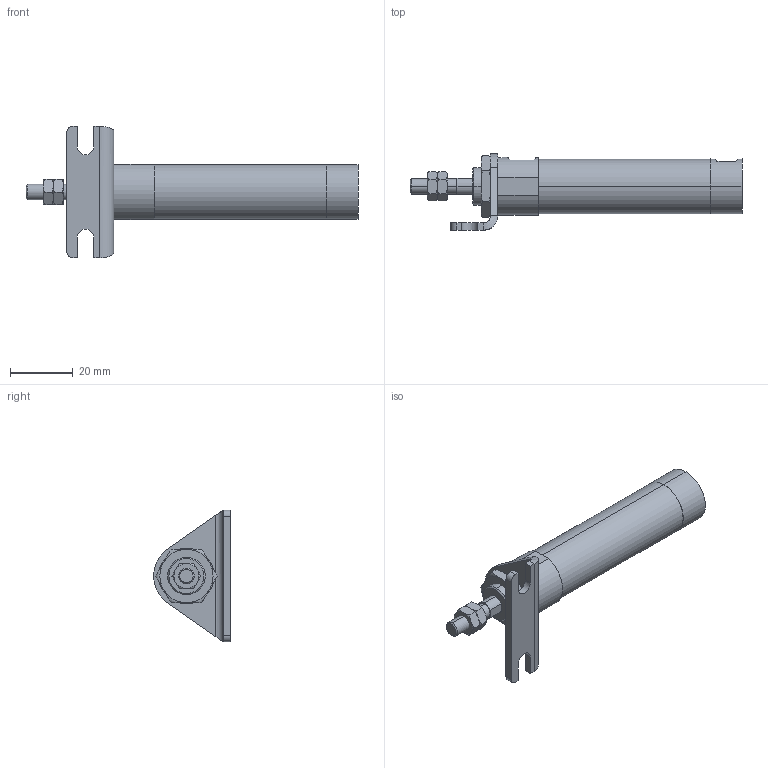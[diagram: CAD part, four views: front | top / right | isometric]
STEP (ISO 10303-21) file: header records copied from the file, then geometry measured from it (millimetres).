
FILE_DESCRIPTION (( 'STEP AP203' ), '1' );
FILE_NAME ('ZGU2-16-30-L.STEP', '2016-03-31T00:58:56', ( '' ), ( '' ), 'SwSTEP 2.0', 'SolidWorks 2014', '' );
FILE_SCHEMA (( 'CONFIG_CONTROL_DESIGN' ));
Length unit declared in the file: millimetre
Products named in the file (5): Z-16-L; ZGU2-16-30-L; ZGU2-16-30
Assembly tree (5 placements, depth 2):
  ZGU2-16-30-L
    ZGU2-16-30
    (unnamed)  x2
    (unnamed)
    Z-16-L
Bounding box: 106 x 24.46 x 42 mm (x, y, z)
Volume: 22571 mm3; surface area: 8792.7 mm2
Topology: 5 solids, 5 shells, 134 faces, 299 edges, 180 vertices
Faces by surface type: plane 56, torus 36, cylinder 32, cone 8, bspline 2
Entity records: 3968 total; most frequent: CARTESIAN_POINT 997, DIRECTION 511, ORIENTED_EDGE 494, EDGE_CURVE 247, AXIS2_PLACEMENT_3D 202, VERTEX_POINT 152, EDGE_LOOP 127, FACE_OUTER_BOUND 112
